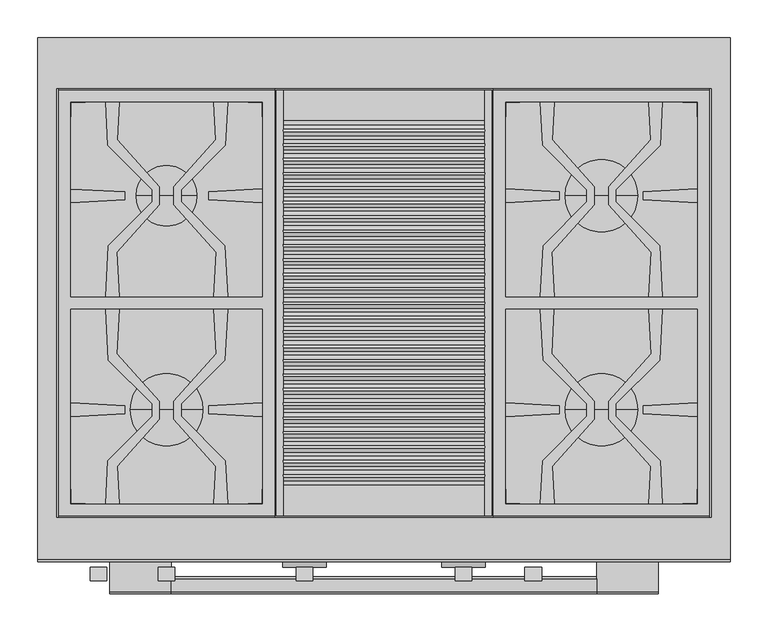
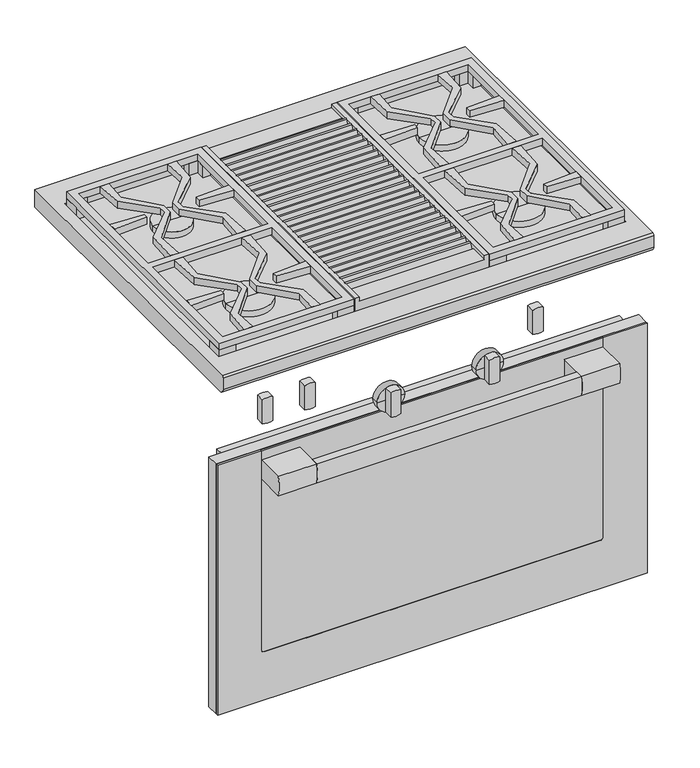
"""IFC4 building model written with IfcOpenShell, lengths in millimetres: proxy geometry, 11791450_USA_HR1135-3G_EDST-CLST : 25113581_USA_11791450_HR1135-3G_EDST-CLST."""

from ifc_helpers import new_model, si_unit, point, frame, frame_2d, origin, place, context, project, spatial, polyline, circle_curve, trimmed, segment, composite_curve, outline, extrude, faceted_brep, source, transform, mapped, element, save
from ifc_brep_helpers import plane_surface, cylinder_surface, revolved_surface, advanced_brep


def specialty_equipment_83be52f8(model_context):
    return source(origin(), model_context, "Body", "SolidModel", [
        extrude(outline(composite_curve([segment(polyline([(-714.0, 624.0), (-731.0, 624.0)]), True, "CONTINUOUS"), segment(trimmed(circle_curve(frame_2d((-655.4583333, 645.5)), 78.5416667), [point((-731.0, 624.0))], [point((-731.0, 667.0))], False, "CARTESIAN"), True, "CONTINUOUS"), segment(polyline([(-731.0, 667.0), (-714.0, 667.0)]), True, "CONTINUOUS"), segment(trimmed(circle_curve(frame_2d((-789.5416667, 645.5)), 78.5416667), [point((-714.0, 667.0))], [point((-714.0, 624.0))], False, "CARTESIAN"), True, "CONTINUOUS")], self_intersect=False)), frame((-281.0, 0.0, 0.0), z_axis=(1.0, 0.0, 0.0), x_axis=(0.0, 1.0, 0.0)), (0.0, 0.0, 1.0), 562.0),
        extrude(outline(composite_curve([segment(polyline([(-731.0, 667.0), (-668.7, 667.0), (-668.7, 624.0), (-731.0, 624.0)]), True, "CONTINUOUS"), segment(trimmed(circle_curve(frame_2d((-655.4583333, 645.5)), 78.5416667), [point((-731.0, 624.0))], [point((-731.0, 667.0))], False, "CARTESIAN"), True, "CONTINUOUS")], self_intersect=False)), frame((281.0, 0.0, 0.0), z_axis=(1.0, 0.0, 0.0), x_axis=(0.0, 1.0, 0.0)), (0.0, 0.0, 1.0), 81.0),
        extrude(outline(composite_curve([segment(polyline([(-668.7, 667.0), (-668.7, 624.0), (-731.0, 624.0)]), True, "CONTINUOUS"), segment(trimmed(circle_curve(frame_2d((-655.4583333, 645.5)), 78.5416667), [point((-731.0, 624.0))], [point((-731.0, 667.0))], False, "CARTESIAN"), True, "CONTINUOUS"), segment(polyline([(-731.0, 667.0), (-668.7, 667.0)]), True, "CONTINUOUS")], self_intersect=False)), frame((-362.0, 0.0, 0.0), z_axis=(1.0, 0.0, 0.0), x_axis=(0.0, 1.0, 0.0)), (0.0, 0.0, 1.0), 81.0),
        extrude(outline(polyline([(-456.0, -638.0), (456.0, -638.0), (456.0, -664.7), (-456.0, -664.7), (-456.0, -638.0)])), frame((0.0, 0.0, 127.0), z_axis=(0.0, 0.0, 1.0), x_axis=(1.0, 0.0, 0.0)), (0.0, 0.0, 1.0), 561.0),
        extrude(outline(polyline([(-455.0, -664.7), (455.0, -664.7), (455.0, -668.7), (-455.0, -668.7), (-455.0, -664.7)])), frame((0.0, 0.0, 128.0), z_axis=(0.0, 0.0, 1.0), x_axis=(1.0, 0.0, 0.0)), (0.0, 0.0, 1.0), 559.0),
        advanced_brep(
        [(363.0, -664.7, 688.0), (456.0, -664.7, 688.0), (456.0, -664.7, 127.0), (-456.0, -664.7, 127.0), (-456.0, -664.7, 688.0), (-363.0, -664.7, 688.0), (-363.0, -664.7, 687.0), (-455.0, -664.7, 687.0), (-455.0, -664.7, 128.0), (455.0, -664.7, 128.0), (455.0, -664.7, 687.0), (363.0, -664.7, 687.0), (-363.0, -670.0, 688.0), (-456.0, -670.0, 688.0), (-456.0, -670.0, 127.0), (456.0, -670.0, 127.0), (456.0, -670.0, 688.0), (363.0, -670.0, 688.0), (363.0, -670.0, 241.0), (357.0, -670.0, 235.0), (-357.0, -670.0, 235.0), (-363.0, -670.0, 241.0), (-363.0, -668.7, 241.0), (-363.0, -668.7, 687.0), (357.0, -668.7, 235.0), (-357.0, -668.7, 235.0), (363.0, -668.7, 687.0), (363.0, -668.7, 241.0), (455.0, -668.7, 687.0), (455.0, -668.7, 128.0), (-455.0, -668.7, 128.0), (-455.0, -668.7, 687.0)],
        [
            (0, 1),
            (1, 2),
            (2, 3),
            (3, 4),
            (4, 5),
            (5, 6),
            (6, 7),
            (7, 8),
            (8, 9),
            (9, 10),
            (10, 11),
            (11, 0),
            (12, 13),
            (13, 14),
            (14, 15),
            (15, 16),
            (16, 17),
            (17, 18),
            (18, 19, circle_curve(frame((357.0, -670.0, 241.0), z_axis=(0.0, 1.0, 0.0), x_axis=(-1.0, 0.0, 0.0)), 6.0)),
            (19, 20),
            (20, 21, circle_curve(frame((-357.0, -670.0, 241.0), z_axis=(0.0, 1.0, 0.0), x_axis=(-1.0, 0.0, 0.0)), 6.0)),
            (21, 12),
            (21, 22),
            (22, 23),
            (23, 6),
            (5, 12),
            (19, 24),
            (24, 25),
            (25, 20),
            (17, 0),
            (11, 26),
            (26, 27),
            (27, 18),
            (16, 1),
            (15, 2),
            (14, 3),
            (13, 4),
            (25, 22, circle_curve(frame((-357.0, -668.7, 241.0), z_axis=(0.0, 1.0, 0.0), x_axis=(-1.0, 0.0, 0.0)), 6.0)),
            (27, 24, circle_curve(frame((357.0, -668.7, 241.0), z_axis=(0.0, 1.0, 0.0), x_axis=(-1.0, 0.0, 0.0)), 6.0)),
            (28, 29),
            (29, 30),
            (30, 31),
            (31, 23),
            (26, 28),
            (28, 10),
            (9, 29),
            (8, 30),
            (7, 31),
        ],
        [
            plane_surface(frame((-363.0, -664.7, 241.0), z_axis=(0.0, 1.0, 0.0), x_axis=(0.0, 0.0, -1.0))),
            plane_surface(frame((-363.0, -670.0, 241.0), z_axis=(0.0, -1.0, 0.0), x_axis=(0.0, 0.0, 1.0))),
            plane_surface(frame((-363.0, -664.7, 688.0), z_axis=(1.0, 0.0, 0.0), x_axis=(0.0, -1.0, 0.0))),
            plane_surface(frame((-357.0, -664.7, 235.0), z_axis=(0.0, 0.0, 1.0), x_axis=(0.0, -1.0, 0.0))),
            plane_surface(frame((363.0, -664.7, 241.0), z_axis=(-1.0, 0.0, 0.0), x_axis=(0.0, -1.0, 0.0))),
            plane_surface(frame((363.0, -664.7, 688.0), z_axis=(0.0, 0.0, 1.0), x_axis=(0.0, -1.0, 0.0))),
            plane_surface(frame((456.0, -664.7, 688.0), z_axis=(1.0, 0.0, 0.0), x_axis=(0.0, -1.0, 0.0))),
            plane_surface(frame((456.0, -664.7, 127.0), z_axis=(0.0, 0.0, -1.0), x_axis=(0.0, -1.0, 0.0))),
            plane_surface(frame((-456.0, -664.7, 127.0), z_axis=(-1.0, 0.0, 0.0), x_axis=(0.0, -1.0, 0.0))),
            plane_surface(frame((-456.0, -664.7, 688.0), z_axis=(0.0, 0.0, 1.0), x_axis=(0.0, -1.0, 0.0))),
            revolved_surface(polyline([(-363.0, -670.0, 241.0), (-363.0, -668.7, 241.0)]), (-357.0, -670.0, 241.0), (0.0, -1.0, 0.0)),
            revolved_surface(polyline([(351.0, -670.0, 241.0), (351.0, -668.7, 241.0)]), (357.0, -670.0, 241.0), (0.0, -1.0, 0.0)),
            plane_surface(frame((455.0, -668.7, 687.0), z_axis=(0.0, 1.0, 0.0), x_axis=(0.0, 0.0, 1.0))),
            plane_surface(frame((455.0, -664.7, 687.0), z_axis=(-1.0, 0.0, 0.0), x_axis=(0.0, -1.0, 0.0))),
            plane_surface(frame((455.0, -664.7, 128.0), z_axis=(0.0, 0.0, 1.0), x_axis=(0.0, -1.0, 0.0))),
            plane_surface(frame((-455.0, -664.7, 128.0), z_axis=(1.0, 0.0, 0.0), x_axis=(0.0, -1.0, 0.0))),
            plane_surface(frame((-455.0, -664.7, 687.0), z_axis=(0.0, 0.0, -1.0), x_axis=(0.0, -1.0, 0.0))),
        ],
        [
            (0, [[1, 2, 3, 4, 5, 6, 7, 8, 9, 10, 11, 12]]),
            (1, [[13, 14, 15, 16, 17, 18, 19, 20, 21, 22]]),
            (2, [[-22, 23, 24, 25, -6, 26]]),
            (3, [[-20, 27, 28, 29]]),
            (4, [[-18, 30, -12, 31, 32, 33]]),
            (5, [[-1, -30, -17, 34]]),
            (6, [[-2, -34, -16, 35]]),
            (7, [[-3, -35, -15, 36]]),
            (8, [[-4, -36, -14, 37]]),
            (9, [[-5, -37, -13, -26]]),
            (10, [[-21, -29, 38, -23]]),
            (11, [[-19, -33, 39, -27]]),
            (12, [[40, 41, 42, 43, -24, -38, -28, -39, -32, 44]]),
            (13, [[-40, 45, -10, 46]]),
            (14, [[-41, -46, -9, 47]]),
            (15, [[-42, -47, -8, 48]]),
            (16, [[-45, -44, -31, -11]]),
            (16, [[-48, -7, -25, -43]]),
        ],
    ),
        extrude(outline(polyline([(-427.0, -617.0), (427.0, -617.0), (427.0, -638.0), (-427.0, -638.0), (-427.0, -617.0)])), frame((0.0, 0.0, 133.0), z_axis=(0.0, 0.0, 1.0), x_axis=(1.0, 0.0, 0.0)), (0.0, 0.0, 1.0), 550.0),
        extrude(outline(polyline([(206.4177304, -358.0273828), (224.4174107, -358.0273828), (221.3474419, -416.9894265), (277.4590566, -479.568392), (277.4590566, -503.4471434), (221.8930533, -565.5024535), (224.5051055, -615.0212482), (206.5054252, -615.0212482), (209.4706458, -558.0710081), (267.8494553, -499.6921986), (267.8494553, -483.3657133), (209.9764383, -425.4926963), (206.4177304, -358.0273828)])), frame((0.0, 0.0, 914.0), z_axis=(0.0, 0.0, 1.0), x_axis=(1.0, 0.0, 0.0)), (0.0, 0.0, 1.0), 15.0),
        extrude(outline(polyline([(352.5666917, -416.9448139), (349.4588735, -358.0273828), (367.4534566, -358.0273828), (363.9434746, -425.4403498), (306.0712231, -483.3126013), (306.0712231, -499.6295194), (364.5438392, -558.1021355), (367.5462487, -615.0212482), (349.541471, -615.0212482), (352.1220648, -565.4581775), (296.4590702, -503.3795395), (296.4590702, -479.6049953), (352.5666917, -416.9448139)])), frame((0.0, 0.0, 914.0), z_axis=(0.0, 0.0, 1.0), x_axis=(1.0, 0.0, 0.0)), (0.0, 0.0, 1.0), 15.0),
        extrude(outline(polyline([(-367.5822696, -358.0273828), (-349.5825893, -358.0273828), (-352.6525581, -416.9894265), (-296.5409434, -479.568392), (-296.5409434, -503.4471434), (-352.1069467, -565.5024535), (-349.4948945, -615.0212482), (-367.4945748, -615.0212482), (-364.5293542, -558.0710081), (-306.1505447, -499.6921986), (-306.1505447, -483.3657133), (-364.0235617, -425.4926963), (-367.5822696, -358.0273828)])), frame((0.0, 0.0, 914.0), z_axis=(0.0, 0.0, 1.0), x_axis=(1.0, 0.0, 0.0)), (0.0, 0.0, 1.0), 15.0),
        extrude(outline(polyline([(-224.5411265, -358.0273828), (-206.5465434, -358.0273828), (-210.0565254, -425.4403498), (-267.9287769, -483.3126013), (-267.9287769, -499.6295194), (-209.4561608, -558.1021355), (-206.4537513, -615.0212482), (-224.458529, -615.0212482), (-221.8779352, -565.4581775), (-277.5409298, -503.3795395), (-277.5409298, -479.6049953), (-221.4333083, -416.9448139), (-224.5411265, -358.0273828)])), frame((0.0, 0.0, 914.0), z_axis=(0.0, 0.0, 1.0), x_axis=(1.0, 0.0, 0.0)), (0.0, 0.0, 1.0), 15.0),
        extrude(outline(polyline([(206.4614138, -85.0), (224.4614138, -85.0), (221.8661974, -134.5196799), (277.5, -196.6082182), (277.5, -220.3917818), (221.3710782, -283.0328838), (224.4614138, -342.0), (206.4614138, -342.0), (209.9971843, -274.5334805), (267.8891082, -216.6415566), (267.8891082, -200.3584434), (209.4441217, -141.9134569), (206.4614138, -85.0)])), frame((0.0, 0.0, 914.0), z_axis=(0.0, 0.0, 1.0), x_axis=(1.0, 0.0, 0.0)), (0.0, 0.0, 1.0), 15.0),
        extrude(outline(polyline([(349.5, -85.0), (367.5, -85.0), (364.5172921, -141.9134569), (306.1108918, -200.3198573), (306.1108918, -216.6801428), (363.9642295, -274.5334805), (367.5, -342.0), (349.5, -342.0), (352.5903356, -283.0328839), (296.5, -220.4348449), (296.5, -196.5651551), (352.0952165, -134.5196799), (349.5, -85.0)])), frame((0.0, 0.0, 914.0), z_axis=(0.0, 0.0, 1.0), x_axis=(1.0, 0.0, 0.0)), (0.0, 0.0, 1.0), 15.0),
        extrude(outline(polyline([(-367.5385862, -85.0), (-349.5385862, -85.0), (-352.1338026, -134.5196799), (-296.5, -196.6082182), (-296.5, -220.3917818), (-352.6289218, -283.0328838), (-349.5385862, -342.0), (-367.5385862, -342.0), (-364.0028157, -274.5334805), (-306.1108918, -216.6415566), (-306.1108918, -200.3584434), (-364.5558783, -141.9134569), (-367.5385862, -85.0)])), frame((0.0, 0.0, 914.0), z_axis=(0.0, 0.0, 1.0), x_axis=(1.0, 0.0, 0.0)), (0.0, 0.0, 1.0), 15.0),
        extrude(outline(polyline([(-224.5, -85.0), (-206.5, -85.0), (-209.4827079, -141.9134569), (-267.8891082, -200.3198573), (-267.8891082, -216.6801428), (-210.0357705, -274.5334805), (-206.5, -342.0), (-224.5, -342.0), (-221.4096644, -283.0328839), (-277.5, -220.4348449), (-277.5, -196.5651551), (-221.9047835, -134.5196799), (-224.5, -85.0)])), frame((0.0, 0.0, 914.0), z_axis=(0.0, 0.0, 1.0), x_axis=(1.0, 0.0, 0.0)), (0.0, 0.0, 1.0), 15.0),
        extrude(outline(polyline([(429.5, -67.0), (429.5, -633.0), (144.5, -633.0), (144.5, -67.0), (429.5, -67.0)])), frame((0.0, 0.0, 870.0), z_axis=(0.0, 0.0, 1.0), x_axis=(1.0, 0.0, 0.0)), (0.0, 0.0, 1.0), 17.0),
        extrude(outline(polyline([(-144.5, -67.0), (-144.5, -633.0), (-429.5, -633.0), (-429.5, -67.0), (-144.5, -67.0)])), frame((0.0, 0.0, 870.0), z_axis=(0.0, 0.0, 1.0), x_axis=(1.0, 0.0, 0.0)), (0.0, 0.0, 1.0), 17.0),
        extrude(outline(polyline([(-342.5, -213.7921261), (-413.5, -217.4578849), (-413.5, -199.5421151), (-342.5, -203.2078739), (-342.5, -213.7921261)])), frame((0.0, 0.0, 914.0), z_axis=(0.0, 0.0, 1.0), x_axis=(1.0, 0.0, 0.0)), (0.0, 0.0, 1.0), 15.0),
        extrude(outline(polyline([(-160.5, -199.5029948), (-160.5, -217.4970052), (-231.5, -213.7790477), (-231.5, -203.2209523), (-160.5, -199.5029948)])), frame((0.0, 0.0, 914.0), z_axis=(0.0, 0.0, 1.0), x_axis=(1.0, 0.0, 0.0)), (0.0, 0.0, 1.0), 15.0),
        extrude(outline(polyline([(-342.5, -496.2921261), (-413.5, -499.9578849), (-413.5, -482.0421151), (-342.5, -485.7078739), (-342.5, -496.2921261)])), frame((0.0, 0.0, 914.0), z_axis=(0.0, 0.0, 1.0), x_axis=(1.0, 0.0, 0.0)), (0.0, 0.0, 1.0), 15.0),
        extrude(outline(polyline([(-160.5, -482.0029948), (-160.5, -499.9970052), (-231.5, -496.2790477), (-231.5, -485.7209523), (-160.5, -482.0029948)])), frame((0.0, 0.0, 914.0), z_axis=(0.0, 0.0, 1.0), x_axis=(1.0, 0.0, 0.0)), (0.0, 0.0, 1.0), 15.0),
        extrude(outline(polyline([(-144.5, -631.0), (-179.5, -631.0), (-179.5, -615.0), (-160.5, -615.0), (-160.5, -596.0), (-144.5, -596.0), (-144.5, -631.0)])), frame((0.0, 0.0, 887.0), z_axis=(0.0, 0.0, 1.0), x_axis=(1.0, 0.0, 0.0)), (0.0, 0.0, 1.0), 27.0),
        extrude(outline(polyline([(-429.5, -631.0), (-429.5, -596.0), (-413.5, -596.0), (-413.5, -615.0), (-394.5, -615.0), (-394.5, -631.0), (-429.5, -631.0)])), frame((0.0, 0.0, 887.0), z_axis=(0.0, 0.0, 1.0), x_axis=(1.0, 0.0, 0.0)), (0.0, 0.0, 1.0), 27.0),
        extrude(outline(polyline([(-144.5, -69.0), (-144.5, -104.0), (-160.5, -104.0), (-160.5, -85.0), (-179.5, -85.0), (-179.5, -69.0), (-144.5, -69.0)])), frame((0.0, 0.0, 887.0), z_axis=(0.0, 0.0, 1.0), x_axis=(1.0, 0.0, 0.0)), (0.0, 0.0, 1.0), 27.0),
        extrude(outline(polyline([(-429.5, -69.0), (-394.5, -69.0), (-394.5, -85.0), (-413.5, -85.0), (-413.5, -104.0), (-429.5, -104.0), (-429.5, -69.0)])), frame((0.0, 0.0, 887.0), z_axis=(0.0, 0.0, 1.0), x_axis=(1.0, 0.0, 0.0)), (0.0, 0.0, 1.0), 27.0),
        extrude(outline(polyline([(160.5, -499.9810574), (160.5, -482.0189426), (231.5, -485.7078739), (231.5, -496.2921261), (160.5, -499.9810574)])), frame((0.0, 0.0, 914.0), z_axis=(0.0, 0.0, 1.0), x_axis=(1.0, 0.0, 0.0)), (0.0, 0.0, 1.0), 15.0),
        extrude(outline(polyline([(413.5, -482.0262039), (413.5, -499.9737961), (342.5, -496.2790477), (342.5, -485.7209523), (413.5, -482.0262039)])), frame((0.0, 0.0, 914.0), z_axis=(0.0, 0.0, 1.0), x_axis=(1.0, 0.0, 0.0)), (0.0, 0.0, 1.0), 15.0),
        extrude(outline(polyline([(160.5, -217.4810574), (160.5, -199.5189426), (231.5, -203.2078739), (231.5, -213.7921261), (160.5, -217.4810574)])), frame((0.0, 0.0, 914.0), z_axis=(0.0, 0.0, 1.0), x_axis=(1.0, 0.0, 0.0)), (0.0, 0.0, 1.0), 15.0),
        extrude(outline(polyline([(413.5, -199.5262039), (413.5, -217.4737961), (342.5, -213.7790477), (342.5, -203.2209523), (413.5, -199.5262039)])), frame((0.0, 0.0, 914.0), z_axis=(0.0, 0.0, 1.0), x_axis=(1.0, 0.0, 0.0)), (0.0, 0.0, 1.0), 15.0),
        advanced_brep(
        [(239.0, -208.5, 887.0), (335.0, -208.5, 887.0), (335.0, -208.5, 901.0), (239.0, -208.5, 901.0), (287.0, -208.5, 887.0), (287.0, -208.5, 901.0)],
        [
            (0, 1, circle_curve(frame((287.0, -208.5, 887.0), z_axis=(0.0, 0.0, 1.0), x_axis=(1.0, 0.0, 0.0)), 48.0)),
            (1, 2),
            (2, 3, circle_curve(frame((287.0, -208.5, 901.0), z_axis=(0.0, 0.0, -1.0), x_axis=(1.0, 0.0, 0.0)), 48.0)),
            (3, 0),
            (1, 0, circle_curve(frame((287.0, -208.5, 887.0), z_axis=(0.0, 0.0, 1.0), x_axis=(1.0, 0.0, 0.0)), 48.0)),
            (3, 2, circle_curve(frame((287.0, -208.5, 901.0), z_axis=(0.0, 0.0, -1.0), x_axis=(1.0, 0.0, 0.0)), 48.0)),
            (4, 1),
            (0, 4),
            (2, 5),
            (5, 3),
        ],
        [
            cylinder_surface(frame((287.0, -208.5, 2424.4), z_axis=(0.0, 0.0, -1.0), x_axis=(1.0, 0.0, 0.0)), 48.0),
            plane_surface(frame((287.0, -208.5, 887.0), z_axis=(0.0, 0.0, -1.0), x_axis=(1.0, 0.0, 0.0))),
            plane_surface(frame((287.0, -208.5, 901.0), z_axis=(0.0, 0.0, 1.0), x_axis=(1.0, 0.0, 0.0))),
        ],
        [
            (0, [[1, 2, 3, 4]]),
            (0, [[5, -4, 6, -2]]),
            (1, [[7, -1, 8]]),
            (1, [[-8, -5, -7]]),
            (2, [[-3, 9, 10]]),
            (2, [[-6, -10, -9]]),
        ],
    ),
        extrude(outline(polyline([(-144.5, -69.0), (-144.5, -631.0), (-429.5, -631.0), (-429.5, -69.0), (-144.5, -69.0)]), holes=[polyline([(-160.5, -85.0), (-413.5, -85.0), (-413.5, -342.0), (-160.5, -342.0), (-160.5, -85.0)]), polyline([(-413.5, -358.0), (-413.5, -615.0), (-160.5, -615.0), (-160.5, -358.0), (-413.5, -358.0)])]), frame((0.0, 0.0, 914.0), z_axis=(0.0, 0.0, 1.0), x_axis=(1.0, 0.0, 0.0)), (0.0, 0.0, 1.0), 15.0),
        extrude(outline(polyline([(429.5, -69.0), (429.5, -631.0), (144.5, -631.0), (144.5, -69.0), (429.5, -69.0)]), holes=[polyline([(413.5, -85.0), (160.5, -85.0), (160.5, -342.0), (413.5, -342.0), (413.5, -85.0)]), polyline([(160.5, -358.0), (160.5, -615.0), (413.5, -615.0), (413.5, -358.0), (160.5, -358.0)])]), frame((0.0, 0.0, 914.0), z_axis=(0.0, 0.0, 1.0), x_axis=(1.0, 0.0, 0.0)), (0.0, 0.0, 1.0), 15.0),
        advanced_brep(
        [(239.0, -491.0, 887.0), (335.0, -491.0, 887.0), (335.0, -491.0, 901.0), (239.0, -491.0, 901.0), (287.0, -491.0, 887.0), (287.0, -491.0, 901.0)],
        [
            (0, 1, circle_curve(frame((287.0, -491.0, 887.0), z_axis=(0.0, 0.0, 1.0), x_axis=(1.0, 0.0, 0.0)), 48.0)),
            (1, 2),
            (2, 3, circle_curve(frame((287.0, -491.0, 901.0), z_axis=(0.0, 0.0, -1.0), x_axis=(1.0, 0.0, 0.0)), 48.0)),
            (3, 0),
            (1, 0, circle_curve(frame((287.0, -491.0, 887.0), z_axis=(0.0, 0.0, 1.0), x_axis=(1.0, 0.0, 0.0)), 48.0)),
            (3, 2, circle_curve(frame((287.0, -491.0, 901.0), z_axis=(0.0, 0.0, -1.0), x_axis=(1.0, 0.0, 0.0)), 48.0)),
            (4, 1),
            (0, 4),
            (2, 5),
            (5, 3),
        ],
        [
            cylinder_surface(frame((287.0, -491.0, 2424.4), z_axis=(0.0, 0.0, -1.0), x_axis=(1.0, 0.0, 0.0)), 48.0),
            plane_surface(frame((287.0, -491.0, 887.0), z_axis=(0.0, 0.0, -1.0), x_axis=(1.0, 0.0, 0.0))),
            plane_surface(frame((287.0, -491.0, 901.0), z_axis=(0.0, 0.0, 1.0), x_axis=(1.0, 0.0, 0.0))),
        ],
        [
            (0, [[1, 2, 3, 4]]),
            (0, [[5, -4, 6, -2]]),
            (1, [[7, -1, 8]]),
            (1, [[-8, -5, -7]]),
            (2, [[-3, 9, 10]]),
            (2, [[-6, -10, -9]]),
        ],
    ),
        extrude(outline(polyline([(429.5, -631.0), (394.5, -631.0), (394.5, -615.0), (413.5, -615.0), (413.5, -596.0), (429.5, -596.0), (429.5, -631.0)])), frame((0.0, 0.0, 887.0), z_axis=(0.0, 0.0, 1.0), x_axis=(1.0, 0.0, 0.0)), (0.0, 0.0, 1.0), 27.0),
        extrude(outline(polyline([(144.5, -631.0), (144.5, -596.0), (160.5125078, -596.0), (160.5125078, -615.0), (179.5, -615.0), (179.5, -631.0), (144.5, -631.0)])), frame((0.0, 0.0, 887.0), z_axis=(0.0, 0.0, 1.0), x_axis=(1.0, 0.0, 0.0)), (0.0, 0.0, 1.0), 27.0),
        extrude(outline(polyline([(429.5, -69.0), (429.5, -104.0), (413.4874922, -104.0), (413.4874922, -85.0), (394.5, -85.0), (394.5, -69.0), (429.5, -69.0)])), frame((0.0, 0.0, 887.0), z_axis=(0.0, 0.0, 1.0), x_axis=(1.0, 0.0, 0.0)), (0.0, 0.0, 1.0), 27.0),
        extrude(outline(polyline([(144.5, -69.0), (179.5, -69.0), (179.5, -85.0), (160.5125078, -85.0), (160.5125078, -104.0), (144.5, -104.0), (144.5, -69.0)])), frame((0.0, 0.0, 887.0), z_axis=(0.0, 0.0, 1.0), x_axis=(1.0, 0.0, 0.0)), (0.0, 0.0, 1.0), 27.0),
        advanced_brep(
        [(-287.0, -208.5, 887.0), (-247.0, -208.5, 887.0), (-327.0, -208.5, 887.0), (-327.0, -208.5, 901.0), (-247.0, -208.5, 901.0), (-287.0, -208.5, 901.0)],
        [
            (0, 1),
            (1, 2, circle_curve(frame((-287.0, -208.5, 887.0), z_axis=(0.0, 0.0, -1.0), x_axis=(1.0, 0.0, 0.0)), 40.0)),
            (2, 0),
            (2, 1, circle_curve(frame((-287.0, -208.5, 887.0), z_axis=(0.0, 0.0, -1.0), x_axis=(1.0, 0.0, 0.0)), 40.0)),
            (3, 4, circle_curve(frame((-287.0, -208.5, 901.0), z_axis=(0.0, 0.0, 1.0), x_axis=(1.0, 0.0, 0.0)), 40.0)),
            (4, 5),
            (5, 3),
            (4, 3, circle_curve(frame((-287.0, -208.5, 901.0), z_axis=(0.0, 0.0, 1.0), x_axis=(1.0, 0.0, 0.0)), 40.0)),
            (1, 4),
            (3, 2),
        ],
        [
            plane_surface(frame((-287.0, -208.5, 887.0), z_axis=(0.0, 0.0, -1.0), x_axis=(1.0, 0.0, 0.0))),
            plane_surface(frame((-287.0, -208.5, 901.0), z_axis=(0.0, 0.0, 1.0), x_axis=(1.0, 0.0, 0.0))),
            cylinder_surface(frame((-287.0, -208.5, 2424.4), z_axis=(0.0, 0.0, -1.0), x_axis=(1.0, 0.0, 0.0)), 40.0),
        ],
        [
            (0, [[1, 2, 3]]),
            (0, [[-3, 4, -1]]),
            (1, [[5, 6, 7]]),
            (1, [[8, -7, -6]]),
            (2, [[-2, 9, -5, 10]]),
            (2, [[-4, -10, -8, -9]]),
        ],
    ),
        advanced_brep(
        [(-335.0, -491.0, 887.0), (-239.0, -491.0, 887.0), (-239.0, -491.0, 901.0), (-335.0, -491.0, 901.0), (-287.0, -491.0, 887.0), (-287.0, -491.0, 901.0)],
        [
            (0, 1, circle_curve(frame((-287.0, -491.0, 887.0), z_axis=(0.0, 0.0, 1.0), x_axis=(1.0, 0.0, 0.0)), 48.0)),
            (1, 2),
            (2, 3, circle_curve(frame((-287.0, -491.0, 901.0), z_axis=(0.0, 0.0, -1.0), x_axis=(1.0, 0.0, 0.0)), 48.0)),
            (3, 0),
            (1, 0, circle_curve(frame((-287.0, -491.0, 887.0), z_axis=(0.0, 0.0, 1.0), x_axis=(1.0, 0.0, 0.0)), 48.0)),
            (3, 2, circle_curve(frame((-287.0, -491.0, 901.0), z_axis=(0.0, 0.0, -1.0), x_axis=(1.0, 0.0, 0.0)), 48.0)),
            (4, 1),
            (0, 4),
            (2, 5),
            (5, 3),
        ],
        [
            cylinder_surface(frame((-287.0, -491.0, 2424.4), z_axis=(0.0, 0.0, -1.0), x_axis=(1.0, 0.0, 0.0)), 48.0),
            plane_surface(frame((-287.0, -491.0, 887.0), z_axis=(0.0, 0.0, -1.0), x_axis=(1.0, 0.0, 0.0))),
            plane_surface(frame((-287.0, -491.0, 901.0), z_axis=(0.0, 0.0, 1.0), x_axis=(1.0, 0.0, 0.0))),
        ],
        [
            (0, [[1, 2, 3, 4]]),
            (0, [[5, -4, 6, -2]]),
            (1, [[7, -1, 8]]),
            (1, [[-8, -5, -7]]),
            (2, [[-3, 9, 10]]),
            (2, [[-6, -10, -9]]),
        ],
    ),
        advanced_brep(
        [(457.0, 0.0, 902.0), (457.0, -688.3499547, 902.0), (457.0, -692.0, 898.3499547), (457.0, -692.0, 872.0), (457.0, -682.0, 862.0), (457.0, 0.0, 862.0), (-457.0, 0.0, 902.0), (-457.0, 0.0, 862.0), (-457.0, -682.0, 862.0), (-457.0, -692.0, 872.0), (-457.0, -692.0, 898.3499547), (-457.0, -688.3499547, 902.0), (-432.0, -67.0, 902.0), (432.0, -67.0, 902.0), (432.0, -633.0, 902.0), (-432.0, -633.0, 902.0), (432.0, -67.0, 870.0), (-432.0, -67.0, 870.0), (-432.0, -633.0, 870.0), (432.0, -633.0, 870.0)],
        [
            (0, 1),
            (1, 2, circle_curve(frame((457.0, -688.0, 898.0), z_axis=(1.0, 0.0, 0.0), x_axis=(0.0, 0.0, 1.0)), 4.0152794)),
            (2, 3),
            (3, 4, circle_curve(frame((457.0, -682.0, 872.0), z_axis=(1.0, 0.0, 0.0), x_axis=(0.0, 0.0, 1.0)), 10.0)),
            (4, 5),
            (5, 0),
            (6, 7),
            (7, 8),
            (8, 9, circle_curve(frame((-457.0, -682.0, 872.0), z_axis=(-1.0, 0.0, 0.0), x_axis=(0.0, 0.0, 1.0)), 10.0)),
            (9, 10),
            (10, 11, circle_curve(frame((-457.0, -688.0, 898.0), z_axis=(-1.0, 0.0, 0.0), x_axis=(0.0, 0.0, 1.0)), 4.0152794)),
            (11, 6),
            (0, 6),
            (11, 1),
            (12, 13),
            (13, 14),
            (14, 15),
            (15, 12),
            (10, 2),
            (9, 3),
            (8, 4),
            (7, 5),
            (16, 17),
            (17, 18),
            (18, 19),
            (19, 16),
            (16, 13),
            (12, 17),
            (15, 18),
            (14, 19),
        ],
        [
            plane_surface(frame((457.0, -688.3499547, 902.0), z_axis=(1.0, 0.0, 0.0), x_axis=(0.0, -1.0, 0.0))),
            plane_surface(frame((-457.0, -688.3499547, 902.0), z_axis=(-1.0, 0.0, 0.0), x_axis=(0.0, 1.0, 0.0))),
            plane_surface(frame((457.0, 0.0, 902.0), z_axis=(0.0, 0.0, 1.0), x_axis=(-1.0, 0.0, 0.0))),
            cylinder_surface(frame((-457.0, -688.0, 898.0), z_axis=(1.0, 0.0, 0.0), x_axis=(0.0, 0.0, 1.0)), 4.0152794),
            plane_surface(frame((457.0, -692.0, 898.3499547), z_axis=(0.0, -1.0, 0.0), x_axis=(-1.0, 0.0, 0.0))),
            cylinder_surface(frame((-457.0, -682.0, 872.0), z_axis=(1.0, 0.0, 0.0), x_axis=(0.0, 0.0, 1.0)), 10.0),
            plane_surface(frame((457.0, -682.0, 862.0), z_axis=(0.0, 0.0, -1.0), x_axis=(-1.0, 0.0, 0.0))),
            plane_surface(frame((457.0, 0.0, 862.0), z_axis=(0.0, 1.0, 0.0), x_axis=(-1.0, 0.0, 0.0))),
            plane_surface(frame((-432.0, -67.0, 870.0), z_axis=(0.0, 0.0, 1.0), x_axis=(1.0, 0.0, 0.0))),
            plane_surface(frame((432.0, -67.0, 902.0), z_axis=(0.0, -1.0, 0.0), x_axis=(0.0, 0.0, -1.0))),
            plane_surface(frame((-432.0, -67.0, 902.0), z_axis=(1.0, 0.0, 0.0), x_axis=(0.0, 0.0, -1.0))),
            plane_surface(frame((-432.0, -633.0, 902.0), z_axis=(0.0, 1.0, 0.0), x_axis=(0.0, 0.0, -1.0))),
            plane_surface(frame((432.0, -633.0, 902.0), z_axis=(-1.0, 0.0, 0.0), x_axis=(0.0, 0.0, -1.0))),
        ],
        [
            (0, [[1, 2, 3, 4, 5, 6]]),
            (1, [[7, 8, 9, 10, 11, 12]]),
            (2, [[-1, 13, -12, 14], [15, 16, 17, 18]]),
            (3, [[-2, -14, -11, 19]]),
            (4, [[-3, -19, -10, 20]]),
            (5, [[-4, -20, -9, 21]]),
            (6, [[-5, -21, -8, 22]]),
            (7, [[-6, -22, -7, -13]]),
            (8, [[23, 24, 25, 26]]),
            (9, [[-23, 27, -15, 28]]),
            (10, [[-24, -28, -18, 29]]),
            (11, [[-25, -29, -17, 30]]),
            (12, [[-26, -30, -16, -27]]),
        ],
    ),
        extrude(outline(composite_curve([segment(polyline([(-584.850382, 916.0), (-579.8405353, 927.7825791)]), True, "CONTINUOUS"), segment(trimmed(circle_curve(frame_2d((-578.0, 927.0)), 2.0), [point((-579.8405353, 927.7825791))], [point((-576.1594647, 927.7825791))], False, "CARTESIAN"), True, "CONTINUOUS"), segment(polyline([(-576.1594647, 927.7825791), (-571.149618, 916.0), (-584.850382, 916.0)]), True, "CONTINUOUS")], self_intersect=False)), frame((-133.0, 0.0, 0.0), z_axis=(1.0, 0.0, 0.0), x_axis=(0.0, 1.0, 0.0)), (0.0, 0.0, 1.0), 266.0),
        extrude(outline(composite_curve([segment(polyline([(-565.850382, 916.0), (-560.8405353, 927.7825791)]), True, "CONTINUOUS"), segment(trimmed(circle_curve(frame_2d((-559.0, 927.0)), 2.0), [point((-560.8405353, 927.7825791))], [point((-557.1594647, 927.7825791))], False, "CARTESIAN"), True, "CONTINUOUS"), segment(polyline([(-557.1594647, 927.7825791), (-552.149618, 916.0), (-565.850382, 916.0)]), True, "CONTINUOUS")], self_intersect=False)), frame((-133.0, 0.0, 0.0), z_axis=(1.0, 0.0, 0.0), x_axis=(0.0, 1.0, 0.0)), (0.0, 0.0, 1.0), 266.0),
        extrude(outline(composite_curve([segment(polyline([(-546.850382, 916.0), (-541.8405353, 927.7825791)]), True, "CONTINUOUS"), segment(trimmed(circle_curve(frame_2d((-540.0, 927.0)), 2.0), [point((-541.8405353, 927.7825791))], [point((-538.1594647, 927.7825791))], False, "CARTESIAN"), True, "CONTINUOUS"), segment(polyline([(-538.1594647, 927.7825791), (-533.149618, 916.0), (-546.850382, 916.0)]), True, "CONTINUOUS")], self_intersect=False)), frame((-133.0, 0.0, 0.0), z_axis=(1.0, 0.0, 0.0), x_axis=(0.0, 1.0, 0.0)), (0.0, 0.0, 1.0), 266.0),
        extrude(outline(composite_curve([segment(polyline([(-527.850382, 916.0), (-522.8405353, 927.7825791)]), True, "CONTINUOUS"), segment(trimmed(circle_curve(frame_2d((-521.0, 927.0)), 2.0), [point((-522.8405353, 927.7825791))], [point((-519.1594647, 927.7825791))], False, "CARTESIAN"), True, "CONTINUOUS"), segment(polyline([(-519.1594647, 927.7825791), (-514.149618, 916.0), (-527.850382, 916.0)]), True, "CONTINUOUS")], self_intersect=False)), frame((-133.0, 0.0, 0.0), z_axis=(1.0, 0.0, 0.0), x_axis=(0.0, 1.0, 0.0)), (0.0, 0.0, 1.0), 266.0),
        extrude(outline(composite_curve([segment(polyline([(-508.850382, 916.0), (-503.8405353, 927.7825791)]), True, "CONTINUOUS"), segment(trimmed(circle_curve(frame_2d((-502.0, 927.0)), 2.0), [point((-503.8405353, 927.7825791))], [point((-500.1594647, 927.7825791))], False, "CARTESIAN"), True, "CONTINUOUS"), segment(polyline([(-500.1594647, 927.7825791), (-495.149618, 916.0), (-508.850382, 916.0)]), True, "CONTINUOUS")], self_intersect=False)), frame((-133.0, 0.0, 0.0), z_axis=(1.0, 0.0, 0.0), x_axis=(0.0, 1.0, 0.0)), (0.0, 0.0, 1.0), 266.0),
        extrude(outline(composite_curve([segment(polyline([(-489.850382, 916.0), (-484.8405353, 927.7825791)]), True, "CONTINUOUS"), segment(trimmed(circle_curve(frame_2d((-483.0, 927.0)), 2.0), [point((-484.8405353, 927.7825791))], [point((-481.1594647, 927.7825791))], False, "CARTESIAN"), True, "CONTINUOUS"), segment(polyline([(-481.1594647, 927.7825791), (-476.149618, 916.0), (-489.850382, 916.0)]), True, "CONTINUOUS")], self_intersect=False)), frame((-133.0, 0.0, 0.0), z_axis=(1.0, 0.0, 0.0), x_axis=(0.0, 1.0, 0.0)), (0.0, 0.0, 1.0), 266.0),
        extrude(outline(composite_curve([segment(polyline([(-470.850382, 916.0), (-465.8405353, 927.7825791)]), True, "CONTINUOUS"), segment(trimmed(circle_curve(frame_2d((-464.0, 927.0)), 2.0), [point((-465.8405353, 927.7825791))], [point((-462.1594647, 927.7825791))], False, "CARTESIAN"), True, "CONTINUOUS"), segment(polyline([(-462.1594647, 927.7825791), (-457.149618, 916.0), (-470.850382, 916.0)]), True, "CONTINUOUS")], self_intersect=False)), frame((-133.0, 0.0, 0.0), z_axis=(1.0, 0.0, 0.0), x_axis=(0.0, 1.0, 0.0)), (0.0, 0.0, 1.0), 266.0),
        extrude(outline(composite_curve([segment(polyline([(-451.850382, 916.0), (-446.8405353, 927.7825791)]), True, "CONTINUOUS"), segment(trimmed(circle_curve(frame_2d((-445.0, 927.0)), 2.0), [point((-446.8405353, 927.7825791))], [point((-443.1594647, 927.7825791))], False, "CARTESIAN"), True, "CONTINUOUS"), segment(polyline([(-443.1594647, 927.7825791), (-438.149618, 916.0), (-451.850382, 916.0)]), True, "CONTINUOUS")], self_intersect=False)), frame((-133.0, 0.0, 0.0), z_axis=(1.0, 0.0, 0.0), x_axis=(0.0, 1.0, 0.0)), (0.0, 0.0, 1.0), 266.0),
        extrude(outline(composite_curve([segment(polyline([(-432.850382, 916.0), (-427.8405353, 927.7825791)]), True, "CONTINUOUS"), segment(trimmed(circle_curve(frame_2d((-426.0, 927.0)), 2.0), [point((-427.8405353, 927.7825791))], [point((-424.1594647, 927.7825791))], False, "CARTESIAN"), True, "CONTINUOUS"), segment(polyline([(-424.1594647, 927.7825791), (-419.149618, 916.0), (-432.850382, 916.0)]), True, "CONTINUOUS")], self_intersect=False)), frame((-133.0, 0.0, 0.0), z_axis=(1.0, 0.0, 0.0), x_axis=(0.0, 1.0, 0.0)), (0.0, 0.0, 1.0), 266.0),
        extrude(outline(composite_curve([segment(polyline([(-413.850382, 916.0), (-408.8405353, 927.7825791)]), True, "CONTINUOUS"), segment(trimmed(circle_curve(frame_2d((-407.0, 927.0)), 2.0), [point((-408.8405353, 927.7825791))], [point((-405.1594647, 927.7825791))], False, "CARTESIAN"), True, "CONTINUOUS"), segment(polyline([(-405.1594647, 927.7825791), (-400.149618, 916.0), (-413.850382, 916.0)]), True, "CONTINUOUS")], self_intersect=False)), frame((-133.0, 0.0, 0.0), z_axis=(1.0, 0.0, 0.0), x_axis=(0.0, 1.0, 0.0)), (0.0, 0.0, 1.0), 266.0),
        extrude(outline(composite_curve([segment(polyline([(-394.850382, 916.0), (-389.8405353, 927.7825791)]), True, "CONTINUOUS"), segment(trimmed(circle_curve(frame_2d((-388.0, 927.0)), 2.0), [point((-389.8405353, 927.7825791))], [point((-386.1594647, 927.7825791))], False, "CARTESIAN"), True, "CONTINUOUS"), segment(polyline([(-386.1594647, 927.7825791), (-381.149618, 916.0), (-394.850382, 916.0)]), True, "CONTINUOUS")], self_intersect=False)), frame((-133.0, 0.0, 0.0), z_axis=(1.0, 0.0, 0.0), x_axis=(0.0, 1.0, 0.0)), (0.0, 0.0, 1.0), 266.0),
        extrude(outline(composite_curve([segment(polyline([(-375.850382, 916.0), (-370.8405353, 927.7825791)]), True, "CONTINUOUS"), segment(trimmed(circle_curve(frame_2d((-369.0, 927.0)), 2.0), [point((-370.8405353, 927.7825791))], [point((-367.1594647, 927.7825791))], False, "CARTESIAN"), True, "CONTINUOUS"), segment(polyline([(-367.1594647, 927.7825791), (-362.149618, 916.0), (-375.850382, 916.0)]), True, "CONTINUOUS")], self_intersect=False)), frame((-133.0, 0.0, 0.0), z_axis=(1.0, 0.0, 0.0), x_axis=(0.0, 1.0, 0.0)), (0.0, 0.0, 1.0), 266.0),
        extrude(outline(composite_curve([segment(polyline([(-356.850382, 916.0), (-351.8405353, 927.7825791)]), True, "CONTINUOUS"), segment(trimmed(circle_curve(frame_2d((-350.0, 927.0)), 2.0), [point((-351.8405353, 927.7825791))], [point((-348.1594647, 927.7825791))], False, "CARTESIAN"), True, "CONTINUOUS"), segment(polyline([(-348.1594647, 927.7825791), (-343.149618, 916.0), (-356.850382, 916.0)]), True, "CONTINUOUS")], self_intersect=False)), frame((-133.0, 0.0, 0.0), z_axis=(1.0, 0.0, 0.0), x_axis=(0.0, 1.0, 0.0)), (0.0, 0.0, 1.0), 266.0),
        extrude(outline(composite_curve([segment(polyline([(-337.850382, 916.0), (-332.8405353, 927.7825791)]), True, "CONTINUOUS"), segment(trimmed(circle_curve(frame_2d((-331.0, 927.0)), 2.0), [point((-332.8405353, 927.7825791))], [point((-329.1594647, 927.7825791))], False, "CARTESIAN"), True, "CONTINUOUS"), segment(polyline([(-329.1594647, 927.7825791), (-324.149618, 916.0), (-337.850382, 916.0)]), True, "CONTINUOUS")], self_intersect=False)), frame((-133.0, 0.0, 0.0), z_axis=(1.0, 0.0, 0.0), x_axis=(0.0, 1.0, 0.0)), (0.0, 0.0, 1.0), 266.0),
        extrude(outline(composite_curve([segment(polyline([(-318.850382, 916.0), (-313.8405353, 927.7825791)]), True, "CONTINUOUS"), segment(trimmed(circle_curve(frame_2d((-312.0, 927.0)), 2.0), [point((-313.8405353, 927.7825791))], [point((-310.1594647, 927.7825791))], False, "CARTESIAN"), True, "CONTINUOUS"), segment(polyline([(-310.1594647, 927.7825791), (-305.149618, 916.0), (-318.850382, 916.0)]), True, "CONTINUOUS")], self_intersect=False)), frame((-133.0, 0.0, 0.0), z_axis=(1.0, 0.0, 0.0), x_axis=(0.0, 1.0, 0.0)), (0.0, 0.0, 1.0), 266.0),
        extrude(outline(composite_curve([segment(polyline([(-299.850382, 916.0), (-294.8405353, 927.7825791)]), True, "CONTINUOUS"), segment(trimmed(circle_curve(frame_2d((-293.0, 927.0)), 2.0), [point((-294.8405353, 927.7825791))], [point((-291.1594647, 927.7825791))], False, "CARTESIAN"), True, "CONTINUOUS"), segment(polyline([(-291.1594647, 927.7825791), (-286.149618, 916.0), (-299.850382, 916.0)]), True, "CONTINUOUS")], self_intersect=False)), frame((-133.0, 0.0, 0.0), z_axis=(1.0, 0.0, 0.0), x_axis=(0.0, 1.0, 0.0)), (0.0, 0.0, 1.0), 266.0),
        extrude(outline(composite_curve([segment(polyline([(-280.850382, 916.0), (-275.8405353, 927.7825791)]), True, "CONTINUOUS"), segment(trimmed(circle_curve(frame_2d((-274.0, 927.0)), 2.0), [point((-275.8405353, 927.7825791))], [point((-272.1594647, 927.7825791))], False, "CARTESIAN"), True, "CONTINUOUS"), segment(polyline([(-272.1594647, 927.7825791), (-267.149618, 916.0), (-280.850382, 916.0)]), True, "CONTINUOUS")], self_intersect=False)), frame((-133.0, 0.0, 0.0), z_axis=(1.0, 0.0, 0.0), x_axis=(0.0, 1.0, 0.0)), (0.0, 0.0, 1.0), 266.0),
        extrude(outline(composite_curve([segment(polyline([(-261.850382, 916.0), (-256.8405353, 927.7825791)]), True, "CONTINUOUS"), segment(trimmed(circle_curve(frame_2d((-255.0, 927.0)), 2.0), [point((-256.8405353, 927.7825791))], [point((-253.1594647, 927.7825791))], False, "CARTESIAN"), True, "CONTINUOUS"), segment(polyline([(-253.1594647, 927.7825791), (-248.149618, 916.0), (-261.850382, 916.0)]), True, "CONTINUOUS")], self_intersect=False)), frame((-133.0, 0.0, 0.0), z_axis=(1.0, 0.0, 0.0), x_axis=(0.0, 1.0, 0.0)), (0.0, 0.0, 1.0), 266.0),
        extrude(outline(composite_curve([segment(polyline([(-242.850382, 916.0), (-237.8405353, 927.7825791)]), True, "CONTINUOUS"), segment(trimmed(circle_curve(frame_2d((-236.0, 927.0)), 2.0), [point((-237.8405353, 927.7825791))], [point((-234.1594647, 927.7825791))], False, "CARTESIAN"), True, "CONTINUOUS"), segment(polyline([(-234.1594647, 927.7825791), (-229.149618, 916.0), (-242.850382, 916.0)]), True, "CONTINUOUS")], self_intersect=False)), frame((-133.0, 0.0, 0.0), z_axis=(1.0, 0.0, 0.0), x_axis=(0.0, 1.0, 0.0)), (0.0, 0.0, 1.0), 266.0),
        extrude(outline(composite_curve([segment(polyline([(-223.850382, 916.0), (-218.8405353, 927.7825791)]), True, "CONTINUOUS"), segment(trimmed(circle_curve(frame_2d((-217.0, 927.0)), 2.0), [point((-218.8405353, 927.7825791))], [point((-215.1594647, 927.7825791))], False, "CARTESIAN"), True, "CONTINUOUS"), segment(polyline([(-215.1594647, 927.7825791), (-210.149618, 916.0), (-223.850382, 916.0)]), True, "CONTINUOUS")], self_intersect=False)), frame((-133.0, 0.0, 0.0), z_axis=(1.0, 0.0, 0.0), x_axis=(0.0, 1.0, 0.0)), (0.0, 0.0, 1.0), 266.0),
        extrude(outline(composite_curve([segment(polyline([(-204.850382, 916.0), (-199.8405353, 927.7825791)]), True, "CONTINUOUS"), segment(trimmed(circle_curve(frame_2d((-198.0, 927.0)), 2.0), [point((-199.8405353, 927.7825791))], [point((-196.1594647, 927.7825791))], False, "CARTESIAN"), True, "CONTINUOUS"), segment(polyline([(-196.1594647, 927.7825791), (-191.149618, 916.0), (-204.850382, 916.0)]), True, "CONTINUOUS")], self_intersect=False)), frame((-133.0, 0.0, 0.0), z_axis=(1.0, 0.0, 0.0), x_axis=(0.0, 1.0, 0.0)), (0.0, 0.0, 1.0), 266.0),
        extrude(outline(composite_curve([segment(polyline([(-186.0094205, 916.0), (-180.9995737, 927.7825791)]), True, "CONTINUOUS"), segment(trimmed(circle_curve(frame_2d((-179.1590385, 927.0)), 2.0), [point((-180.9995737, 927.7825791))], [point((-177.3185032, 927.7825791))], False, "CARTESIAN"), True, "CONTINUOUS"), segment(polyline([(-177.3185032, 927.7825791), (-172.3086564, 916.0), (-186.0094205, 916.0)]), True, "CONTINUOUS")], self_intersect=False)), frame((-133.0, 0.0, 0.0), z_axis=(1.0, 0.0, 0.0), x_axis=(0.0, 1.0, 0.0)), (0.0, 0.0, 1.0), 266.0),
        extrude(outline(composite_curve([segment(polyline([(-167.0094205, 916.0), (-161.9995737, 927.7825791)]), True, "CONTINUOUS"), segment(trimmed(circle_curve(frame_2d((-160.1590385, 927.0)), 2.0), [point((-161.9995737, 927.7825791))], [point((-158.3185032, 927.7825791))], False, "CARTESIAN"), True, "CONTINUOUS"), segment(polyline([(-158.3185032, 927.7825791), (-153.3086564, 916.0), (-167.0094205, 916.0)]), True, "CONTINUOUS")], self_intersect=False)), frame((-133.0, 0.0, 0.0), z_axis=(1.0, 0.0, 0.0), x_axis=(0.0, 1.0, 0.0)), (0.0, 0.0, 1.0), 266.0),
        extrude(outline(composite_curve([segment(polyline([(-147.9510319, 916.0), (-142.9411852, 927.7825791)]), True, "CONTINUOUS"), segment(trimmed(circle_curve(frame_2d((-141.1006499, 927.0)), 2.0), [point((-142.9411852, 927.7825791))], [point((-139.2601147, 927.7825791))], False, "CARTESIAN"), True, "CONTINUOUS"), segment(polyline([(-139.2601147, 927.7825791), (-134.2502679, 916.0), (-147.9510319, 916.0)]), True, "CONTINUOUS")], self_intersect=False)), frame((-133.0, 0.0, 0.0), z_axis=(1.0, 0.0, 0.0), x_axis=(0.0, 1.0, 0.0)), (0.0, 0.0, 1.0), 266.0),
        extrude(outline(composite_curve([segment(polyline([(-128.9510319, 916.0), (-123.9411852, 927.7825791)]), True, "CONTINUOUS"), segment(trimmed(circle_curve(frame_2d((-122.1006499, 927.0)), 2.0), [point((-123.9411852, 927.7825791))], [point((-120.2601147, 927.7825791))], False, "CARTESIAN"), True, "CONTINUOUS"), segment(polyline([(-120.2601147, 927.7825791), (-115.2502679, 916.0), (-128.9510319, 916.0)]), True, "CONTINUOUS")], self_intersect=False)), frame((-133.0, 0.0, 0.0), z_axis=(1.0, 0.0, 0.0), x_axis=(0.0, 1.0, 0.0)), (0.0, 0.0, 1.0), 266.0),
        faceted_brep([(-142.5, -69.0, 929.0), (-142.5, -631.0, 929.0), (-133.0, -631.0, 929.0), (-133.0, -69.0, 929.0), (142.5, -631.0, 929.0), (142.5, -69.0, 929.0), (133.0, -69.0, 929.0), (133.0, -631.0, 929.0), (142.5, -69.0, 891.0), (142.5, -631.0, 891.0), (-142.5, -631.0, 891.0), (-142.5, -69.0, 891.0), (133.0, -356.6944574, 891.0), (133.0, -109.0, 891.0), (-133.0, -109.0, 891.0), (-133.0, -356.6944574, 891.0), (-133.0, -591.0, 891.0), (133.0, -591.0, 891.0), (-133.0, -69.0, 921.0), (133.0, -69.0, 921.0), (133.0, -631.0, 921.0), (-133.0, -631.0, 921.0), (133.0, -591.0, 921.0), (133.0, -109.0, 921.0), (-133.0, -591.0, 921.0), (-133.0, -109.0, 921.0)], [[[0, 1, 2, 3]], [[4, 5, 6, 7]], [[8, 9, 10, 11], [12, 13, 14, 15, 16, 17]], [[8, 11, 0, 3, 18, 19, 6, 5]], [[1, 0, 11, 10]], [[10, 9, 4, 7, 20, 21, 2, 1]], [[5, 4, 9, 8]], [[22, 20, 7, 6, 19, 23, 13, 12, 17]], [[24, 16, 15, 14, 25, 18, 3, 2, 21]], [[22, 17, 16, 24]], [[13, 23, 25, 14]], [[23, 19, 18, 25]], [[20, 22, 24, 21]]]),
        extrude(outline(composite_curve([segment(polyline([(759.8328157, 94.0), (706.1671843, 94.0)]), True, "CONTINUOUS"), segment(trimmed(circle_curve(frame_2d((733.0, 105.0)), 29.0), [point((706.1671843, 94.0))], [point((706.1671843, 116.0))], False, "CARTESIAN"), True, "CONTINUOUS"), segment(polyline([(706.1671843, 116.0), (759.8328157, 116.0)]), True, "CONTINUOUS"), segment(trimmed(circle_curve(frame_2d((733.0, 105.0)), 29.0), [point((759.8328157, 116.0))], [point((759.8328157, 94.0))], False, "CARTESIAN"), True, "CONTINUOUS")], self_intersect=False)), frame((0.0, -717.0, 0.0), z_axis=(0.0, 1.0, 0.0), x_axis=(0.0, 0.0, 1.0)), (0.0, 0.0, 1.0), 18.0),
        extrude(outline(composite_curve([segment(polyline([(759.8328157, -116.0), (706.1671843, -116.0)]), True, "CONTINUOUS"), segment(trimmed(circle_curve(frame_2d((733.0, -105.0)), 29.0), [point((706.1671843, -116.0))], [point((706.1671843, -94.0))], False, "CARTESIAN"), True, "CONTINUOUS"), segment(polyline([(706.1671843, -94.0), (759.8328157, -94.0)]), True, "CONTINUOUS"), segment(trimmed(circle_curve(frame_2d((733.0, -105.0)), 29.0), [point((759.8328157, -94.0))], [point((759.8328157, -116.0))], False, "CARTESIAN"), True, "CONTINUOUS")], self_intersect=False)), frame((0.0, -717.0, 0.0), z_axis=(0.0, 1.0, 0.0), x_axis=(0.0, 0.0, 1.0)), (0.0, 0.0, 1.0), 18.0),
        advanced_brep(
        [(-105.0, -683.0, 733.0), (-76.0, -683.0, 733.0), (-134.0, -683.0, 733.0), (-134.0, -699.0, 733.0), (-76.0, -699.0, 733.0), (-105.0, -699.0, 733.0)],
        [
            (0, 1),
            (1, 2, circle_curve(frame((-105.0, -683.0, 733.0), z_axis=(0.0, 1.0, 0.0), x_axis=(1.0, 0.0, 0.0)), 29.0)),
            (2, 0),
            (2, 1, circle_curve(frame((-105.0, -683.0, 733.0), z_axis=(0.0, 1.0, 0.0), x_axis=(1.0, 0.0, 0.0)), 29.0)),
            (3, 4, circle_curve(frame((-105.0, -699.0, 733.0), z_axis=(0.0, -1.0, 0.0), x_axis=(1.0, 0.0, 0.0)), 29.0)),
            (4, 5),
            (5, 3),
            (4, 3, circle_curve(frame((-105.0, -699.0, 733.0), z_axis=(0.0, -1.0, 0.0), x_axis=(1.0, 0.0, 0.0)), 29.0)),
            (1, 4),
            (3, 2),
        ],
        [
            plane_surface(frame((-105.0, -683.0, 733.0), z_axis=(0.0, 1.0, 0.0), x_axis=(1.0, 0.0, 0.0))),
            plane_surface(frame((-105.0, -699.0, 733.0), z_axis=(0.0, -1.0, 0.0), x_axis=(1.0, 0.0, 0.0))),
            cylinder_surface(frame((-105.0, 751.3738435, 733.0), z_axis=(0.0, 1.0, 0.0), x_axis=(1.0, 0.0, 0.0)), 29.0),
        ],
        [
            (0, [[1, 2, 3]]),
            (0, [[-3, 4, -1]]),
            (1, [[5, 6, 7]]),
            (1, [[8, -7, -6]]),
            (2, [[-2, 9, -5, 10]]),
            (2, [[-4, -10, -8, -9]]),
        ],
    ),
        advanced_brep(
        [(105.0, -683.0, 733.0), (134.0, -683.0, 733.0), (76.0, -683.0, 733.0), (76.0, -699.0, 733.0), (134.0, -699.0, 733.0), (105.0, -699.0, 733.0)],
        [
            (0, 1),
            (1, 2, circle_curve(frame((105.0, -683.0, 733.0), z_axis=(0.0, 1.0, 0.0), x_axis=(1.0, 0.0, 0.0)), 29.0)),
            (2, 0),
            (2, 1, circle_curve(frame((105.0, -683.0, 733.0), z_axis=(0.0, 1.0, 0.0), x_axis=(1.0, 0.0, 0.0)), 29.0)),
            (3, 4, circle_curve(frame((105.0, -699.0, 733.0), z_axis=(0.0, -1.0, 0.0), x_axis=(1.0, 0.0, 0.0)), 29.0)),
            (4, 5),
            (5, 3),
            (4, 3, circle_curve(frame((105.0, -699.0, 733.0), z_axis=(0.0, -1.0, 0.0), x_axis=(1.0, 0.0, 0.0)), 29.0)),
            (1, 4),
            (3, 2),
        ],
        [
            plane_surface(frame((105.0, -683.0, 733.0), z_axis=(0.0, 1.0, 0.0), x_axis=(1.0, 0.0, 0.0))),
            plane_surface(frame((105.0, -699.0, 733.0), z_axis=(0.0, -1.0, 0.0), x_axis=(1.0, 0.0, 0.0))),
            cylinder_surface(frame((105.0, 751.3738435, 733.0), z_axis=(0.0, 1.0, 0.0), x_axis=(1.0, 0.0, 0.0)), 29.0),
        ],
        [
            (0, [[1, 2, 3]]),
            (0, [[-3, 4, -1]]),
            (1, [[5, 6, 7]]),
            (1, [[8, -7, -6]]),
            (2, [[-2, 9, -5, 10]]),
            (2, [[-4, -10, -8, -9]]),
        ],
    ),
        extrude(outline(composite_curve([segment(polyline([(839.8328157, -388.0), (786.1671843, -388.0)]), True, "CONTINUOUS"), segment(trimmed(circle_curve(frame_2d((813.0, -377.0)), 29.0), [point((786.1671843, -388.0))], [point((786.1671843, -366.0))], False, "CARTESIAN"), True, "CONTINUOUS"), segment(polyline([(786.1671843, -366.0), (839.8328157, -366.0)]), True, "CONTINUOUS"), segment(trimmed(circle_curve(frame_2d((813.0, -377.0)), 29.0), [point((839.8328157, -366.0))], [point((839.8328157, -388.0))], False, "CARTESIAN"), True, "CONTINUOUS")], self_intersect=False)), frame((0.0, -717.0, 0.0), z_axis=(0.0, 1.0, 0.0), x_axis=(0.0, 0.0, 1.0)), (0.0, 0.0, 1.0), 18.0),
        extrude(outline(composite_curve([segment(polyline([(839.8328157, -298.0), (786.1671843, -298.0)]), True, "CONTINUOUS"), segment(trimmed(circle_curve(frame_2d((813.0, -287.0)), 29.0), [point((786.1671843, -298.0))], [point((786.1671843, -276.0))], False, "CARTESIAN"), True, "CONTINUOUS"), segment(polyline([(786.1671843, -276.0), (839.8328157, -276.0)]), True, "CONTINUOUS"), segment(trimmed(circle_curve(frame_2d((813.0, -287.0)), 29.0), [point((839.8328157, -276.0))], [point((839.8328157, -298.0))], False, "CARTESIAN"), True, "CONTINUOUS")], self_intersect=False)), frame((0.0, -717.0, 0.0), z_axis=(0.0, 1.0, 0.0), x_axis=(0.0, 0.0, 1.0)), (0.0, 0.0, 1.0), 18.0),
        extrude(outline(composite_curve([segment(polyline([(839.8328157, 186.0), (786.1671843, 186.0)]), True, "CONTINUOUS"), segment(trimmed(circle_curve(frame_2d((813.0, 197.0)), 29.0), [point((786.1671843, 186.0))], [point((786.1671843, 208.0))], False, "CARTESIAN"), True, "CONTINUOUS"), segment(polyline([(786.1671843, 208.0), (839.8328157, 208.0)]), True, "CONTINUOUS"), segment(trimmed(circle_curve(frame_2d((813.0, 197.0)), 29.0), [point((839.8328157, 208.0))], [point((839.8328157, 186.0))], False, "CARTESIAN"), True, "CONTINUOUS")], self_intersect=False)), frame((0.0, -717.0, 0.0), z_axis=(0.0, 1.0, 0.0), x_axis=(0.0, 0.0, 1.0)), (0.0, 0.0, 1.0), 18.0),
    ])


if __name__ == "__main__":
    model = new_model("IFC4")
    model_context = context("Model", 3, world=origin())
    ifc_project = project(units=[si_unit("LENGTHUNIT", "METRE", prefix="MILLI")], contexts=[model_context])
    site = spatial("IfcSite", under=ifc_project)
    building = spatial("IfcBuilding", under=site)
    placement = place(None, origin())
    specialty_equipment_shape = specialty_equipment_83be52f8(model_context)
    element("IfcBuildingElementProxy", 1, Name="11791450_USA_HR1135-3G_EDST-CLST : 25113581_USA_11791450_HR1135-3G_EDST-CLST", ObjectType="11791450_USA_HR1135-3G_EDST-CLST : 25113581_USA_11791450_HR1135-3G_EDST-CLST", at=placement, inside=building, context=model_context, shape_type="MappedRepresentation", body=[
        mapped(specialty_equipment_shape, transform((0.0, 0.0, 0.0), x_axis=(1.0, 0.0, 0.0), y_axis=(0.0, 1.0, 0.0), z_axis=(0.0, 0.0, 1.0))),
    ])
    save(model, "model.ifc")
